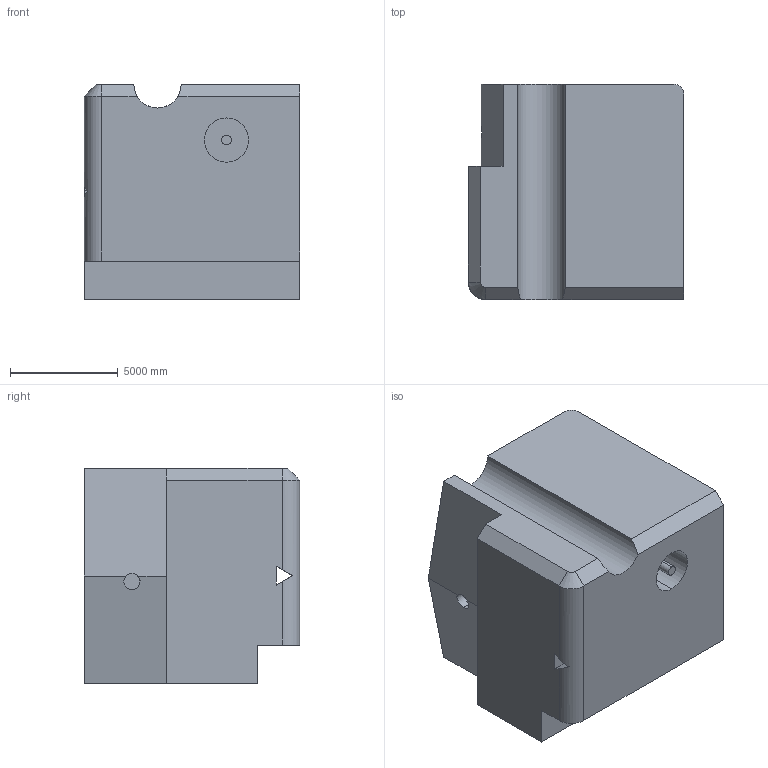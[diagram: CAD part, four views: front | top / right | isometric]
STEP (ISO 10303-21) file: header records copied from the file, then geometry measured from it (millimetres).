
FILE_DESCRIPTION (( 'STEP AP203' ), '1' );
FILE_NAME ('95.STEP', '2022-09-01T12:09:28', ( 'user' ), ( '' ), 'SwSTEP 2.0', 'SolidWorks 2021', '' );
FILE_SCHEMA (( 'CONFIG_CONTROL_DESIGN' ));
Length unit declared in the file: centimetre
Products named in the file (1): 95
Bounding box: 10000 x 10000 x 10000 mm (x, y, z)
Volume: 872959194364.4 mm3; surface area: 674293648.6 mm2
Topology: 1 solids, 1 shells, 31 faces, 82 edges, 54 vertices
Faces by surface type: plane 21, cylinder 9, cone 1
Entity records: 1038 total; most frequent: CARTESIAN_POINT 192, ORIENTED_EDGE 164, DIRECTION 155, EDGE_CURVE 82, VECTOR 57, LINE 57, VERTEX_POINT 54, AXIS2_PLACEMENT_3D 49
